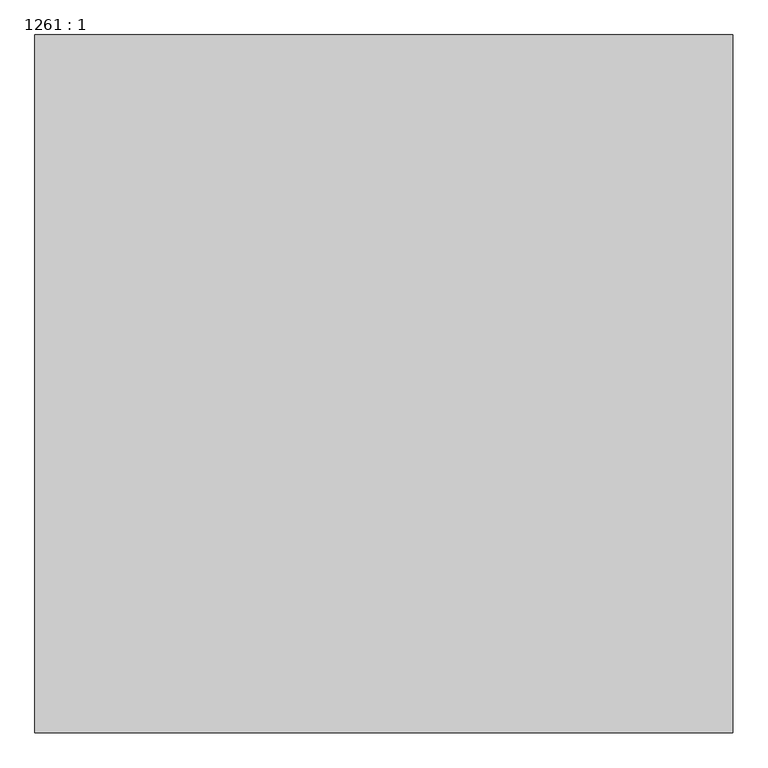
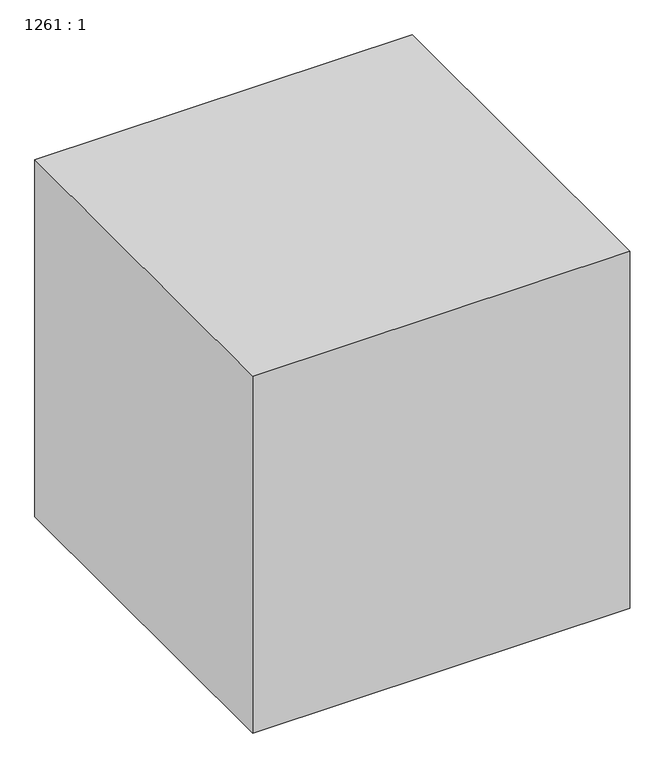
"""IFC4 building model written with IfcOpenShell, lengths in millimetres: proxy geometry, 1261 : 1."""

from ifc_helpers import new_model, si_unit, origin, origin_with_axes, place, context, project, spatial, polyline, outline, extrude, source, transform, mapped, element, save


def proxy_1261_1_7993b1d7(model_context):
    return source(origin(), model_context, "Body", "SweptSolid", [
        extrude(outline(polyline([(15692.0243292, -4664.7705528), (15692.0243292, -5664.7705528), (14692.0243292, -5664.7705528), (14692.0243292, -4664.7705528), (15692.0243292, -4664.7705528)])), origin_with_axes(), (0.0, 0.0, 1.0), 1000.0),
    ])


if __name__ == "__main__":
    model = new_model("IFC4")
    model_context = context("Model", 3, world=origin())
    ifc_project = project(units=[si_unit("LENGTHUNIT", "METRE", prefix="MILLI")], contexts=[model_context])
    site = spatial("IfcSite", under=ifc_project)
    building = spatial("IfcBuilding", under=site)
    placement = place(None, origin())
    proxy_1261_1_shape = proxy_1261_1_7993b1d7(model_context)
    element("IfcBuildingElementProxy", 1, Name="1261 : 1", ObjectType="1261 : 1", at=placement, inside=building, context=model_context, shape_type="MappedRepresentation", body=[
        mapped(proxy_1261_1_shape, transform((0.0, 0.0, 0.0), x_axis=(1.0, 0.0, 0.0), y_axis=(0.0, 1.0, 0.0), z_axis=(0.0, 0.0, 1.0))),
    ])
    save(model, "model.ifc")
